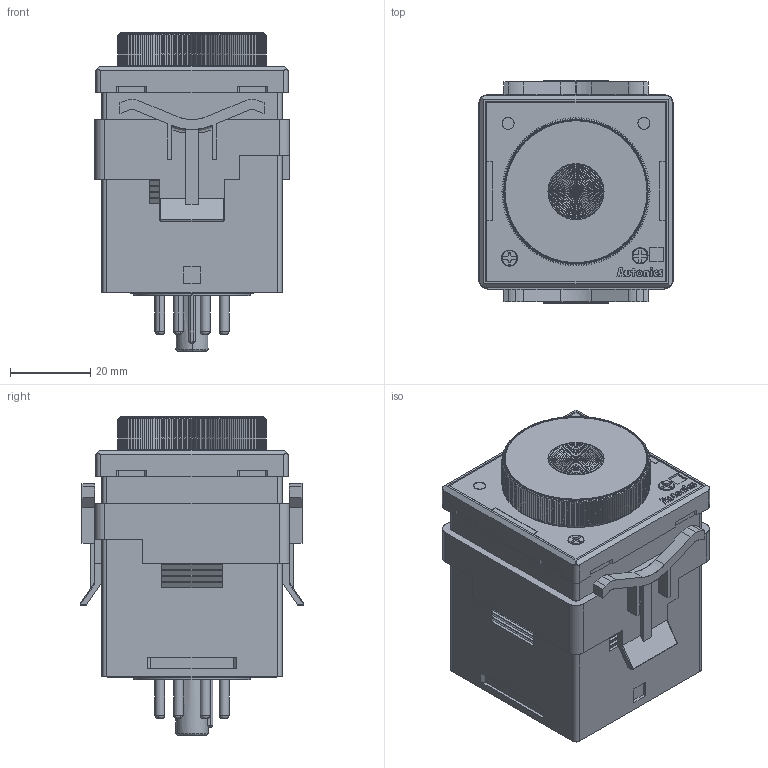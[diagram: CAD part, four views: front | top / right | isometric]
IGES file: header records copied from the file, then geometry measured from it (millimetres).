
Start section: SolidWorks IGES file using analytic representation for surfaces
Bounding box: 48.6 x 55.96 x 79.55 mm (x, y, z)
Surface area: 31659.7 mm2 (no closed solid volume)
Topology: 0 solids, 0 shells, 2221 faces, 14659 edges, 14655 vertices
Faces by surface type: bspline 1713, revolution 508
